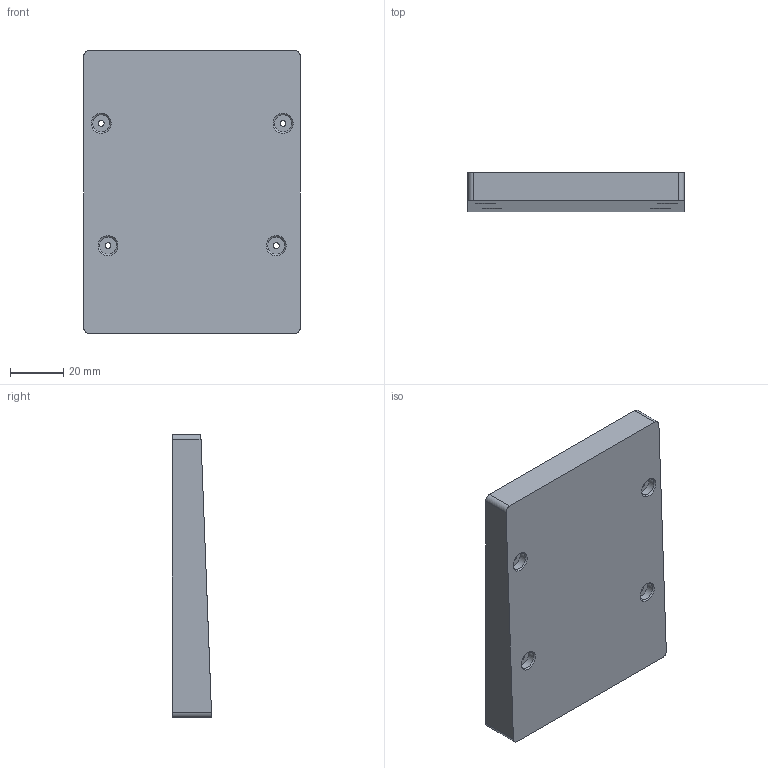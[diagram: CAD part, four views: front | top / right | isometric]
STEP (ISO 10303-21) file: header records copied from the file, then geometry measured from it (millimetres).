
FILE_DESCRIPTION(/* description */ (''),/* implementation_level */ '2;1');
FILE_NAME(/* name */ 'D:/projects/arduino_micro_HID_macro_keyboard/3D CAD files/Housing_Base.step',/* time_stamp */ '2021-09-17T21:11:28+08:00',/* author */ (''),/* organization */ (''),/* preprocessor_version */ 'ST-DEVELOPER v18.1',/* originating_system */ 'Autodesk Translation Framework v10.10.0.1391',/* authorisation */ '');
FILE_SCHEMA (('AUTOMOTIVE_DESIGN { 1 0 10303 214 3 1 1 }'));
Length unit declared in the file: millimetre
Products named in the file (1): Base_cover_rev2
Bounding box: 81 x 14.74 x 106.03 mm (x, y, z)
Volume: 37120.8 mm3; surface area: 26992.3 mm2
Topology: 1 solids, 1 shells, 100 faces, 264 edges, 176 vertices
Faces by surface type: plane 54, cylinder 33, bspline 13
Full cylindrical faces by diameter (mm): 2.2 x4, 4 x4, 6 x1, 6.5 x4, 8 x2
Entity records: 3937 total; most frequent: CARTESIAN_POINT 1374, ORIENTED_EDGE 528, DIRECTION 516, EDGE_CURVE 264, AXIS2_PLACEMENT_3D 181, VERTEX_POINT 176, LINE 154, VECTOR 154
